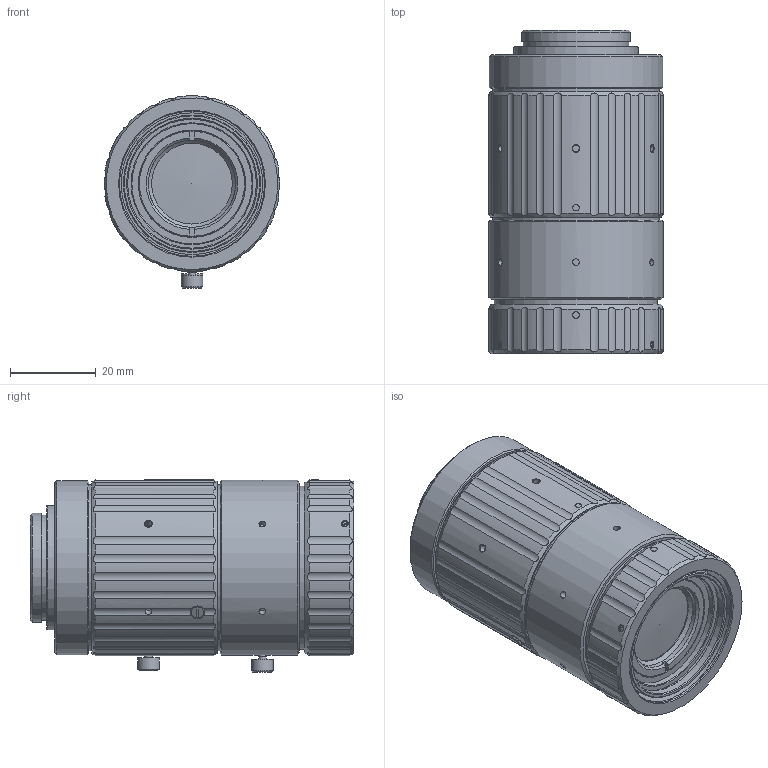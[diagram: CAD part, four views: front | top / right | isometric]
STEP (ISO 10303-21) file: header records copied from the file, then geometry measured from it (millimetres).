
FILE_DESCRIPTION(/* description */ ('Unknown'),/* implementation_level */ '2;1');
FILE_NAME(/* name */ 'F5026-MPT_210401',/* time_stamp */ '2021-04-01T10:17:57+09:00',/* author */ ('Unknown'),/* organization */ ('Unknown'),/* preprocessor_version */ 'ST-DEVELOPER v16.7',/* originating_system */ 'DEX',/* authorisation */ $);
FILE_SCHEMA (('AUTOMOTIVE_DESIGN {1 0 10303 214 3 1 1}'));
Length unit declared in the file: millimetre
Products named in the file (3): F5026-MPT_210401; F5026-MPT_Infinity; F5026-MPT_Mechanical limit
Assembly tree (2 placements, depth 2):
  F5026-MPT_210401
    F5026-MPT_Infinity
    F5026-MPT_Mechanical limit
Bounding box: 41 x 75.33 x 44.86 mm (x, y, z)
Surface area: 31987.6 mm2
Topology: 2 solids, 8 shells, 797 faces, 1984 edges, 1315 vertices
Faces by surface type: cylinder 366, plane 318, cone 99, torus 10, sphere 4
Full cylindrical faces by diameter (mm): 1.321 x12, 1.5 x4, 1.567 x20, 1.7 x10, 1.8 x6, 2 x2, 2.5 x2, 2.8 x2, 3 x8, 3.4 x2, 3.5 x6, 4.999 x4, 18.7 x2, 18.8 x2, 20.3 x2, 23 x2, 24.536 x2, 25.399 x2, 28.004 x2, 28.999 x2, 30 x2, 30.5 x2, 32 x2, 33.024 x2, 33.824 x2, 34.224 x2, 38 x2, 38.7 x4, 39.3 x4, 40.5 x2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
Entity records: 28761 total; most frequent: CARTESIAN_POINT 5572, DIRECTION 3568, ORIENTED_EDGE 3362, EDGE_CURVE 1681, AXIS2_PLACEMENT_3D 1375, VERTEX_POINT 1221, EDGE_LOOP 1126, FACE_BOUND 1126
